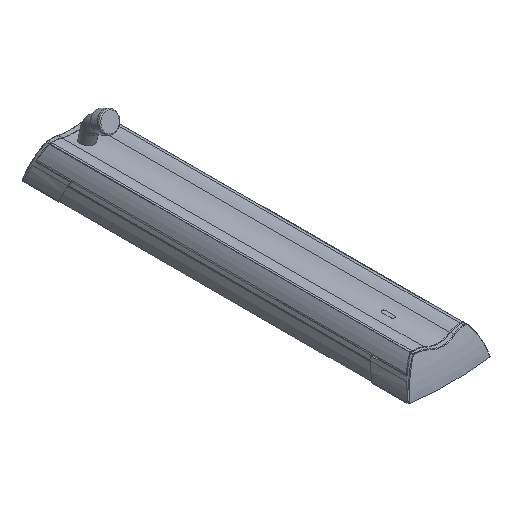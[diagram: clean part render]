
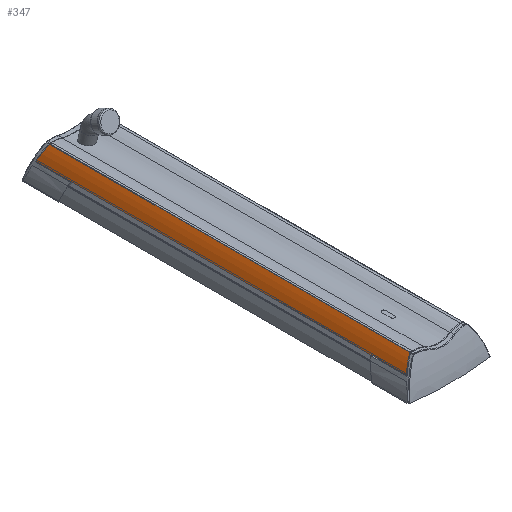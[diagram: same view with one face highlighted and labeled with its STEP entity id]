
A CAD part, isometric view. The second image highlights one B-rep face of the part: STEP entity #347.
In plain terms, the highlighted cylindrical face has radius 199.92 mm (diameter 399.839 mm), a partial arc.
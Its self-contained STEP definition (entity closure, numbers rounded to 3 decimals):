
#212 = CYLINDRICAL_SURFACE ( 'NONE', #3112, 199.92 ) ;
#240 = FACE_OUTER_BOUND ( 'NONE', #3310, .T. ) ;
#288 = CARTESIAN_POINT ( 'NONE',  ( -83.079, -516.5, 97.139 ) ) ;
#347 = ADVANCED_FACE ( 'NONE', ( #240 ), #212, .T. ) ;
#550 = EDGE_CURVE ( 'NONE', #1793, #1796, #3217, .T. ) ;
#640 = CARTESIAN_POINT ( 'NONE',  ( 70.5, -645.908, -30.851 ) ) ;
#724 = CARTESIAN_POINT ( 'NONE',  ( -83.079, 624.683, 97.139 ) ) ;
#1049 = CARTESIAN_POINT ( 'NONE',  ( -109.677, -531.981, 55.775 ) ) ;
#1055 = CARTESIAN_POINT ( 'NONE',  ( -109.677, -645.908, 55.775 ) ) ;
#1081 = DIRECTION ( 'NONE',  ( 0., 1., 0. ) ) ;
#1600 =( BOUNDED_CURVE ( )  B_SPLINE_CURVE ( 3, ( #3557, #2936, #2331, #724 ),
 .UNSPECIFIED., .F., .F. ) 
 B_SPLINE_CURVE_WITH_KNOTS ( ( 4, 4 ),
 ( 2.019, 2.266 ),
 .UNSPECIFIED. ) 
 CURVE ( )  GEOMETRIC_REPRESENTATION_ITEM ( )  RATIONAL_B_SPLINE_CURVE ( ( 1., 0.995, 0.995, 1. ) ) 
 REPRESENTATION_ITEM ( '' )  );
#1727 = VERTEX_POINT ( 'NONE', #2101 ) ;
#1747 = DIRECTION ( 'NONE',  ( 0., 1., 0. ) ) ;
#1793 = VERTEX_POINT ( 'NONE', #1049 ) ;
#1796 = VERTEX_POINT ( 'NONE', #2968 ) ;
#1873 = ORIENTED_EDGE ( 'NONE', *, *, #550, .F. ) ;
#1875 = CARTESIAN_POINT ( 'NONE',  ( -83.079, -516.5, 97.139 ) ) ;
#2039 = CARTESIAN_POINT ( 'NONE',  ( -93.627, -521.237, 84.482 ) ) ;
#2101 = CARTESIAN_POINT ( 'NONE',  ( -83.079, 624.683, 97.139 ) ) ;
#2331 = CARTESIAN_POINT ( 'NONE',  ( -93.627, 629.42, 84.482 ) ) ;
#2469 = ORIENTED_EDGE ( 'NONE', *, *, #2542, .T. ) ;
#2542 = EDGE_CURVE ( 'NONE', #3704, #1727, #2920, .T. ) ;
#2548 = CARTESIAN_POINT ( 'NONE',  ( -102.538, -526.423, 70.624 ) ) ;
#2566 = DIRECTION ( 'NONE',  ( 0., 1., 0. ) ) ;
#2643 =( BOUNDED_CURVE ( )  B_SPLINE_CURVE ( 3, ( #3170, #2548, #2039, #288 ),
 .UNSPECIFIED., .F., .T. ) 
 B_SPLINE_CURVE_WITH_KNOTS ( ( 4, 4 ),
 ( 2.019, 2.266 ),
 .UNSPECIFIED. ) 
 CURVE ( )  GEOMETRIC_REPRESENTATION_ITEM ( )  RATIONAL_B_SPLINE_CURVE ( ( 1., 0.995, 0.995, 1. ) ) 
 REPRESENTATION_ITEM ( '' )  );
#2862 = CARTESIAN_POINT ( 'NONE',  ( -83.079, -645.908, 97.139 ) ) ;
#2907 = VECTOR ( 'NONE', #1747, 1000. ) ;
#2920 = LINE ( 'NONE', #2862, #2907 ) ;
#2936 = CARTESIAN_POINT ( 'NONE',  ( -102.538, 634.606, 70.624 ) ) ;
#2962 = ORIENTED_EDGE ( 'NONE', *, *, #3626, .F. ) ;
#2968 = CARTESIAN_POINT ( 'NONE',  ( -109.677, 640.164, 55.775 ) ) ;
#3112 = AXIS2_PLACEMENT_3D ( 'NONE', #640, #2566, #3183 ) ;
#3170 = CARTESIAN_POINT ( 'NONE',  ( -109.677, -531.981, 55.775 ) ) ;
#3183 = DIRECTION ( 'NONE',  ( 1., 0., 0. ) ) ;
#3212 = EDGE_CURVE ( 'NONE', #1793, #3704, #2643, .T. ) ;
#3217 = LINE ( 'NONE', #1055, #3769 ) ;
#3310 = EDGE_LOOP ( 'NONE', ( #1873, #3488, #2469, #2962 ) ) ;
#3488 = ORIENTED_EDGE ( 'NONE', *, *, #3212, .T. ) ;
#3557 = CARTESIAN_POINT ( 'NONE',  ( -109.677, 640.164, 55.775 ) ) ;
#3626 = EDGE_CURVE ( 'NONE', #1796, #1727, #1600, .T. ) ;
#3704 = VERTEX_POINT ( 'NONE', #1875 ) ;
#3769 = VECTOR ( 'NONE', #1081, 1000. ) ;
